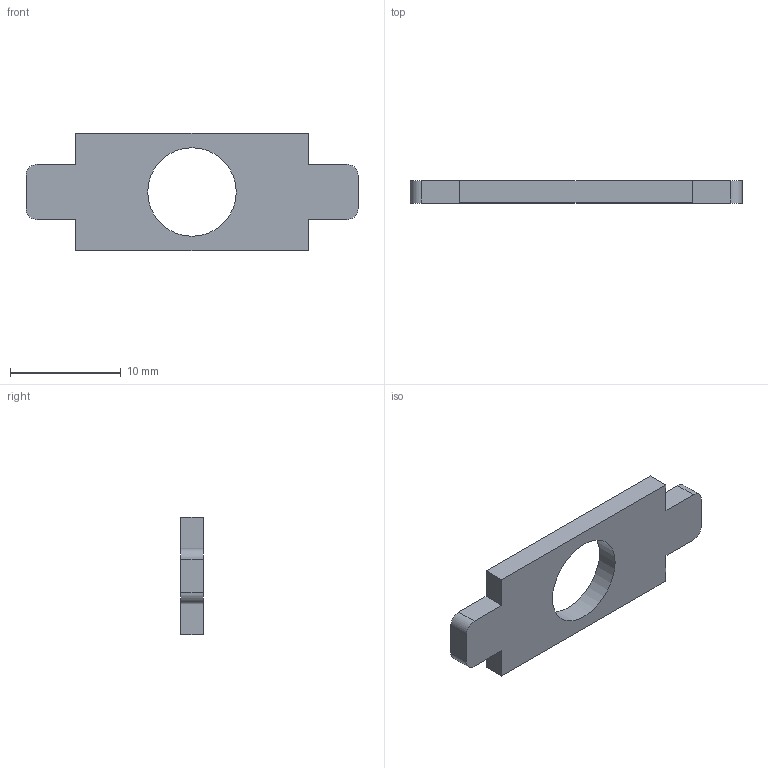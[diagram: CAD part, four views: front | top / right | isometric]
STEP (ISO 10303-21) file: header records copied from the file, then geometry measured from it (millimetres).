
FILE_DESCRIPTION(/* description */ (''),/* implementation_level */ '2;1');
FILE_NAME(/* name */ 'D:\3D Printing & CAD Work\Customers\My self\Drone 3.0\Thingiverce\Part9.stp',/* time_stamp */ '2018-11-19T19:02:34+02:00',/* author */ ('Damien'),/* organization */ (''),/* preprocessor_version */ 'ST-DEVELOPER v17',/* originating_system */ 'Autodesk Inventor 2018',/* authorisation */ '');
FILE_SCHEMA (('AUTOMOTIVE_DESIGN { 1 0 10303 214 3 1 1 }'));
Length unit declared in the file: millimetre
Products named in the file (1): Part9
Bounding box: 30 x 2 x 10.65 mm (x, y, z)
Volume: 435.1 mm3; surface area: 644.6 mm2
Topology: 1 solids, 1 shells, 19 faces, 51 edges, 34 vertices
Faces by surface type: plane 14, cylinder 5
Full cylindrical faces by diameter (mm): 8 x1
Entity records: 638 total; most frequent: CARTESIAN_POINT 105, ORIENTED_EDGE 102, DIRECTION 101, EDGE_CURVE 51, LINE 41, VECTOR 41, VERTEX_POINT 34, AXIS2_PLACEMENT_3D 30
